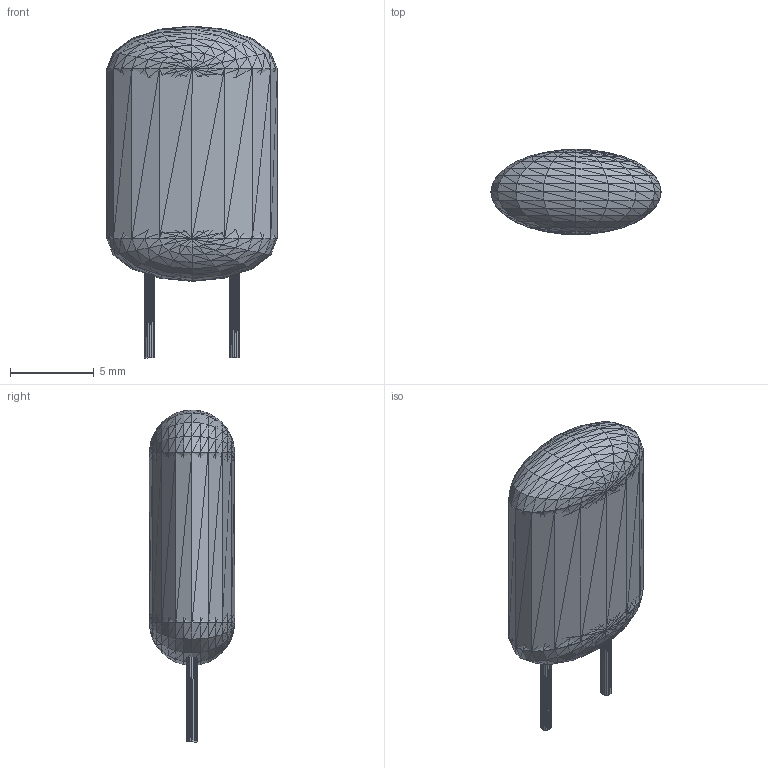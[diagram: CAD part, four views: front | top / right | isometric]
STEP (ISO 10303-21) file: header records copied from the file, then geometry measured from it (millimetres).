
FILE_DESCRIPTION(('HOOPS Exchange Step'),'2;1');
FILE_NAME('***.stp');
FILE_SCHEMA( ('AP242_MANAGED_MODEL_BASED_3D_ENGINEERING_MIM_LF {1 0 10303 442 1 1 4 }') );
Length unit declared in the file: inch
Products named in the file (6): CAP600X400MIL_2; CAP600X400MIL_3; CAP600X400MIL_4; CAP600X400MIL_5; CAP600X400MIL_6; CAP600X400MIL
Assembly tree (5 placements, depth 2):
  CAP600X400MIL
    CAP600X400MIL_2
    CAP600X400MIL_3
    CAP600X400MIL_4
    CAP600X400MIL_5
    CAP600X400MIL_6
Bounding box: 10.16 x 5.08 x 19.81 mm (x, y, z)
Volume: 671 mm3; surface area: 630.7 mm2
Topology: 5 solids, 5 shells, 1152 faces, 1728 edges, 586 vertices
Faces by surface type: plane 1152
Entity records: 22736 total; most frequent: DIRECTION 4056, CARTESIAN_POINT 3478, ORIENTED_EDGE 3456, VECTOR 1728, LINE 1728, EDGE_CURVE 1728, AXIS2_PLACEMENT_3D 1164, PLANE 1152
